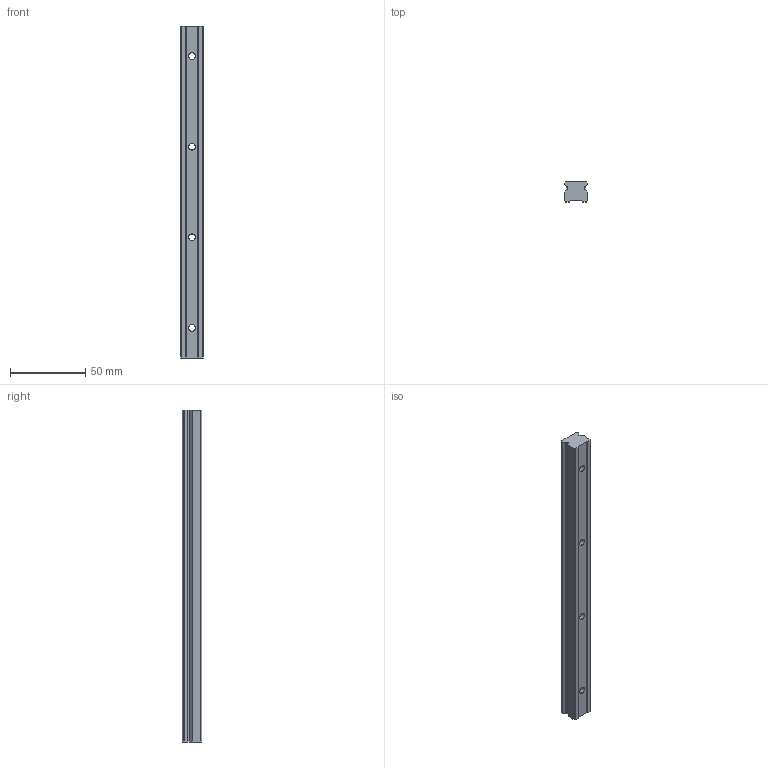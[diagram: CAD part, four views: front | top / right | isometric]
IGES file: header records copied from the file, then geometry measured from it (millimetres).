
Start section: SolidWorks IGES file using analytic representation for surfaces
Global section: file name: C:\Users\IanO\Desktop\L1016_v2\L1016.BL15_v2\L1016.BL15_v2_20190611_IGES\L1016.BL15-0220.igs; native system: SolidWorks 2017; preprocessor: SolidWorks 2017; author: IanO; date: 190612.122506; units: millimetre
Bounding box: 15 x 13 x 220 mm (x, y, z)
Surface area: 13822.2 mm2 (no closed solid volume)
Topology: 0 solids, 0 shells, 46 faces, 728 edges, 728 vertices
Faces by surface type: bspline 26, revolution 20
